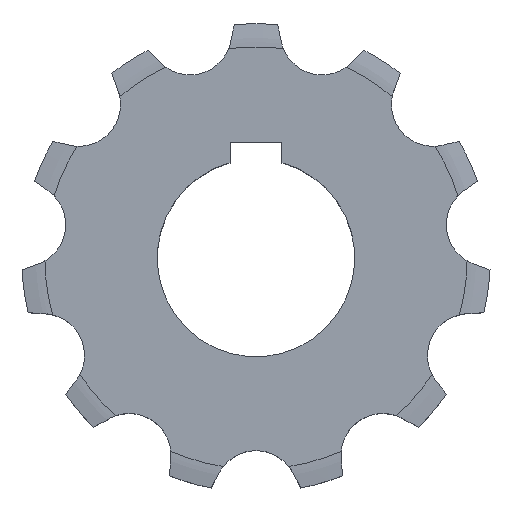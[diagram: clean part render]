
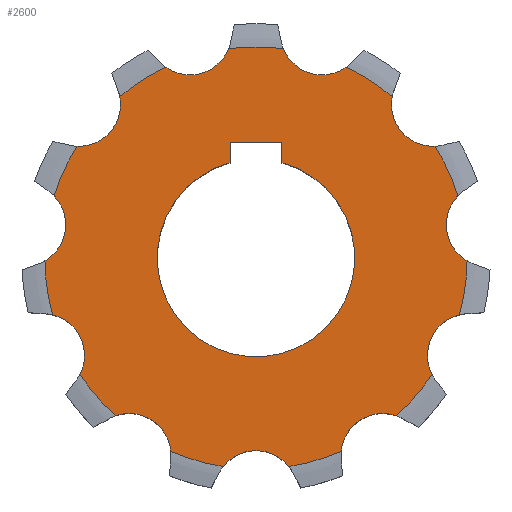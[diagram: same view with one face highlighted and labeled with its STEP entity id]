
A CAD part, top view. The second image highlights one B-rep face of the part: STEP entity #2600.
In plain terms, the highlighted planar face has unit normal (0, 0, 1).
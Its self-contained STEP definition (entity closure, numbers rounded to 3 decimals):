
#33=CARTESIAN_POINT('',(12.7,43.252,8.1));
#34=DIRECTION('',(0.,0.,1.));
#35=DIRECTION('',(-0.928,-0.372,0.));
#36=AXIS2_PLACEMENT_3D('',#33,#34,#35);
#42=CARTESIAN_POINT('',(0.,0.,8.1));
#43=DIRECTION('',(0.,0.,-1.));
#44=DIRECTION('',(0.427,0.904,0.));
#45=AXIS2_PLACEMENT_3D('',#42,#43,#44);
#50=CARTESIAN_POINT('',(34.068,29.52,8.1));
#51=DIRECTION('',(0.,0.,1.));
#52=DIRECTION('',(-0.982,0.189,0.));
#53=AXIS2_PLACEMENT_3D('',#50,#51,#52);
#58=CARTESIAN_POINT('',(0.,0.,8.1));
#59=DIRECTION('',(0.,0.,-1.));
#60=DIRECTION('',(0.848,0.53,0.));
#61=AXIS2_PLACEMENT_3D('',#58,#59,#60);
#66=CARTESIAN_POINT('',(44.619,6.415,8.1));
#67=DIRECTION('',(0.,0.,1.));
#68=DIRECTION('',(-0.724,0.69,0.));
#69=AXIS2_PLACEMENT_3D('',#66,#67,#68);
#74=CARTESIAN_POINT('',(0.,0.,8.1));
#75=DIRECTION('',(0.,0.,-1.));
#76=DIRECTION('',(1.,-0.013,0.));
#77=AXIS2_PLACEMENT_3D('',#74,#75,#76);
#82=CARTESIAN_POINT('',(41.005,-18.726,8.1));
#83=DIRECTION('',(0.,0.,1.));
#84=DIRECTION('',(-0.236,0.972,0.));
#85=AXIS2_PLACEMENT_3D('',#82,#83,#84);
#90=CARTESIAN_POINT('',(0.,0.,8.1));
#91=DIRECTION('',(0.,0.,-1.));
#92=DIRECTION('',(0.834,-0.552,0.));
#93=AXIS2_PLACEMENT_3D('',#90,#91,#92);
#98=CARTESIAN_POINT('',(24.371,-37.922,8.1));
#99=DIRECTION('',(0.,0.,1.));
#100=DIRECTION('',(0.327,0.945,0.));
#101=AXIS2_PLACEMENT_3D('',#98,#99,#100);
#106=CARTESIAN_POINT('',(0.,0.,8.1));
#107=DIRECTION('',(0.,0.,-1.));
#108=DIRECTION('',(0.404,-0.915,0.));
#109=AXIS2_PLACEMENT_3D('',#106,#107,#108);
#114=CARTESIAN_POINT('',(0.,-45.078,8.1));
#115=DIRECTION('',(0.,0.,1.));
#116=DIRECTION('',(0.786,0.618,0.));
#117=AXIS2_PLACEMENT_3D('',#114,#115,#116);
#122=CARTESIAN_POINT('',(0.,0.,8.1));
#123=DIRECTION('',(0.,0.,-1.));
#124=DIRECTION('',(-0.155,-0.988,0.));
#125=AXIS2_PLACEMENT_3D('',#122,#123,#124);
#130=CARTESIAN_POINT('',(-24.371,-37.922,8.1));
#131=DIRECTION('',(0.,0.,1.));
#132=DIRECTION('',(0.995,0.095,0.));
#133=AXIS2_PLACEMENT_3D('',#130,#131,#132);
#138=CARTESIAN_POINT('',(0.,0.,8.1));
#139=DIRECTION('',(0.,0.,-1.));
#140=DIRECTION('',(-0.665,-0.747,0.));
#141=AXIS2_PLACEMENT_3D('',#138,#139,#140);
#146=CARTESIAN_POINT('',(-41.005,-18.726,8.1));
#147=DIRECTION('',(0.,0.,1.));
#148=DIRECTION('',(0.889,-0.458,0.));
#149=AXIS2_PLACEMENT_3D('',#146,#147,#148);
#154=CARTESIAN_POINT('',(0.,0.,8.1));
#155=DIRECTION('',(0.,0.,-1.));
#156=DIRECTION('',(-0.963,-0.269,0.));
#157=AXIS2_PLACEMENT_3D('',#154,#155,#156);
#162=CARTESIAN_POINT('',(-44.619,6.415,8.1));
#163=DIRECTION('',(0.,0.,1.));
#164=DIRECTION('',(0.5,-0.866,0.));
#165=AXIS2_PLACEMENT_3D('',#162,#163,#164);
#170=CARTESIAN_POINT('',(0.,0.,8.1));
#171=DIRECTION('',(0.,0.,-1.));
#172=DIRECTION('',(-0.956,0.294,0.));
#173=AXIS2_PLACEMENT_3D('',#170,#171,#172);
#178=CARTESIAN_POINT('',(-34.068,29.52,8.1));
#179=DIRECTION('',(0.,0.,1.));
#180=DIRECTION('',(-0.048,-0.999,0.));
#181=AXIS2_PLACEMENT_3D('',#178,#179,#180);
#186=CARTESIAN_POINT('',(0.,0.,8.1));
#187=DIRECTION('',(0.,0.,-1.));
#188=DIRECTION('',(-0.645,0.764,0.));
#189=AXIS2_PLACEMENT_3D('',#186,#187,#188);
#194=CARTESIAN_POINT('',(-12.7,43.252,8.1));
#195=DIRECTION('',(0.,0.,1.));
#196=DIRECTION('',(-0.58,-0.815,0.));
#197=AXIS2_PLACEMENT_3D('',#194,#195,#196);
#202=DIRECTION('',(0.,1.,0.));
#203=VECTOR('',#202,3.97);
#204=CARTESIAN_POINT('',(5.,18.33,8.1));
#205=LINE('',#204,#203);
#209=DIRECTION('',(-1.,0.,0.));
#210=VECTOR('',#209,10.);
#211=CARTESIAN_POINT('',(5.,22.3,8.1));
#212=LINE('',#211,#210);
#216=DIRECTION('',(0.,-1.,0.));
#217=VECTOR('',#216,3.97);
#218=CARTESIAN_POINT('',(-5.,22.3,8.1));
#219=LINE('',#218,#217);
#255=CARTESIAN_POINT('',(0.,0.,8.1));
#256=DIRECTION('',(0.,0.,1.));
#257=DIRECTION('',(0.129,0.992,0.));
#258=AXIS2_PLACEMENT_3D('',#255,#256,#257);
#1240=CARTESIAN_POINT('',(0.,0.,8.1));
#1241=DIRECTION('',(0.,0.,-1.));
#1242=DIRECTION('',(0.263,0.965,0.));
#1243=AXIS2_PLACEMENT_3D('',#1240,#1241,#1242);
#1434=CARTESIAN_POINT('',(5.255,40.273,8.1));
#2261=CARTESIAN_POINT('',(17.352,36.72,8.1));
#2262=CARTESIAN_POINT('',(26.194,31.038,8.1));
#2263=VERTEX_POINT('',#2261);
#2264=VERTEX_POINT('',#2262);
#2265=CARTESIAN_POINT('',(34.45,21.51,8.1));
#2266=CARTESIAN_POINT('',(38.816,11.95,8.1));
#2267=VERTEX_POINT('',#2265);
#2268=VERTEX_POINT('',#2266);
#2269=CARTESIAN_POINT('',(40.61,-0.53,8.1));
#2270=CARTESIAN_POINT('',(39.115,-10.933,8.1));
#2271=VERTEX_POINT('',#2269);
#2272=VERTEX_POINT('',#2270);
#2273=CARTESIAN_POINT('',(-6.304,-40.122,8.1));
#2274=CARTESIAN_POINT('',(-16.388,-37.161,8.1));
#2275=VERTEX_POINT('',#2273);
#2276=VERTEX_POINT('',#2274);
#2277=CARTESIAN_POINT('',(-26.995,-30.344,8.1));
#2278=CARTESIAN_POINT('',(-33.877,-22.402,8.1));
#2279=VERTEX_POINT('',#2277);
#2280=VERTEX_POINT('',#2278);
#2281=CARTESIAN_POINT('',(-39.115,-10.933,8.1));
#2282=CARTESIAN_POINT('',(-40.61,-0.53,8.1));
#2283=VERTEX_POINT('',#2281);
#2284=VERTEX_POINT('',#2282);
#2285=CARTESIAN_POINT('',(-38.816,11.95,8.1));
#2286=CARTESIAN_POINT('',(-34.45,21.51,8.1));
#2287=VERTEX_POINT('',#2285);
#2288=VERTEX_POINT('',#2286);
#2318=VERTEX_POINT('',#1434);
#2341=CARTESIAN_POINT('',(33.877,-22.402,8.1));
#2342=VERTEX_POINT('',#2341);
#2345=CARTESIAN_POINT('',(26.995,-30.344,8.1));
#2346=CARTESIAN_POINT('',(16.388,-37.161,8.1));
#2347=VERTEX_POINT('',#2345);
#2348=VERTEX_POINT('',#2346);
#2353=CARTESIAN_POINT('',(6.304,-40.122,8.1));
#2354=VERTEX_POINT('',#2353);
#2377=CARTESIAN_POINT('',(-26.194,31.038,8.1));
#2378=CARTESIAN_POINT('',(-17.352,36.72,8.1));
#2379=VERTEX_POINT('',#2377);
#2380=VERTEX_POINT('',#2378);
#2485=CARTESIAN_POINT('',(-5.255,40.273,8.1));
#2486=VERTEX_POINT('',#2485);
#2497=CARTESIAN_POINT('',(5.,18.33,8.1));
#2498=VERTEX_POINT('',#2497);
#2499=CARTESIAN_POINT('',(-5.,18.33,8.1));
#2500=VERTEX_POINT('',#2499);
#2501=CARTESIAN_POINT('',(5.,22.3,8.1));
#2502=VERTEX_POINT('',#2501);
#2503=CARTESIAN_POINT('',(-5.,22.3,8.1));
#2504=VERTEX_POINT('',#2503);
#2539=CARTESIAN_POINT('',(0.,0.,8.1));
#2540=DIRECTION('',(0.,0.,1.));
#2541=DIRECTION('',(1.,0.,0.));
#2542=AXIS2_PLACEMENT_3D('',#2539,#2540,#2541);
#2543=PLANE('',#2542);
#2545=ORIENTED_EDGE('',*,*,#2544,.F.);
#2547=ORIENTED_EDGE('',*,*,#2546,.T.);
#2549=ORIENTED_EDGE('',*,*,#2548,.T.);
#2551=ORIENTED_EDGE('',*,*,#2550,.T.);
#2553=ORIENTED_EDGE('',*,*,#2552,.T.);
#2555=ORIENTED_EDGE('',*,*,#2554,.T.);
#2557=ORIENTED_EDGE('',*,*,#2556,.T.);
#2559=ORIENTED_EDGE('',*,*,#2558,.T.);
#2561=ORIENTED_EDGE('',*,*,#2560,.T.);
#2563=ORIENTED_EDGE('',*,*,#2562,.T.);
#2565=ORIENTED_EDGE('',*,*,#2564,.T.);
#2567=ORIENTED_EDGE('',*,*,#2566,.T.);
#2569=ORIENTED_EDGE('',*,*,#2568,.T.);
#2571=ORIENTED_EDGE('',*,*,#2570,.T.);
#2573=ORIENTED_EDGE('',*,*,#2572,.T.);
#2575=ORIENTED_EDGE('',*,*,#2574,.T.);
#2577=ORIENTED_EDGE('',*,*,#2576,.T.);
#2579=ORIENTED_EDGE('',*,*,#2578,.T.);
#2581=ORIENTED_EDGE('',*,*,#2580,.T.);
#2583=ORIENTED_EDGE('',*,*,#2582,.T.);
#2585=ORIENTED_EDGE('',*,*,#2584,.T.);
#2587=ORIENTED_EDGE('',*,*,#2586,.T.);
#2588=EDGE_LOOP('',(#2545,#2547,#2549,#2551,#2553,#2555,#2557,#2559,#2561,#2563,
#2565,#2567,#2569,#2571,#2573,#2575,#2577,#2579,#2581,#2583,#2585,#2587));
#2589=FACE_OUTER_BOUND('',#2588,.F.);
#2591=ORIENTED_EDGE('',*,*,#2590,.T.);
#2593=ORIENTED_EDGE('',*,*,#2592,.T.);
#2595=ORIENTED_EDGE('',*,*,#2594,.T.);
#2597=ORIENTED_EDGE('',*,*,#2596,.F.);
#2598=EDGE_LOOP('',(#2591,#2593,#2595,#2597));
#2599=FACE_BOUND('',#2598,.F.);
#2600=ADVANCED_FACE('',(#2589,#2599),#2543,.T.);
#37=CIRCLE('',#36,8.019);
#46=CIRCLE('',#45,40.614);
#54=CIRCLE('',#53,8.019);
#62=CIRCLE('',#61,40.614);
#70=CIRCLE('',#69,8.019);
#78=CIRCLE('',#77,40.614);
#86=CIRCLE('',#85,8.019);
#94=CIRCLE('',#93,40.614);
#102=CIRCLE('',#101,8.019);
#110=CIRCLE('',#109,40.614);
#118=CIRCLE('',#117,8.019);
#126=CIRCLE('',#125,40.614);
#134=CIRCLE('',#133,8.019);
#142=CIRCLE('',#141,40.614);
#150=CIRCLE('',#149,8.019);
#158=CIRCLE('',#157,40.614);
#166=CIRCLE('',#165,8.019);
#174=CIRCLE('',#173,40.614);
#182=CIRCLE('',#181,8.019);
#190=CIRCLE('',#189,40.614);
#198=CIRCLE('',#197,8.019);
#259=CIRCLE('',#258,40.614);
#1244=CIRCLE('',#1243,19.);
#2544=EDGE_CURVE('',#2318,#2486,#259,.T.);
#2546=EDGE_CURVE('',#2318,#2263,#37,.T.);
#2548=EDGE_CURVE('',#2263,#2264,#46,.T.);
#2550=EDGE_CURVE('',#2264,#2267,#54,.T.);
#2552=EDGE_CURVE('',#2267,#2268,#62,.T.);
#2554=EDGE_CURVE('',#2268,#2271,#70,.T.);
#2556=EDGE_CURVE('',#2271,#2272,#78,.T.);
#2558=EDGE_CURVE('',#2272,#2342,#86,.T.);
#2560=EDGE_CURVE('',#2342,#2347,#94,.T.);
#2562=EDGE_CURVE('',#2347,#2348,#102,.T.);
#2564=EDGE_CURVE('',#2348,#2354,#110,.T.);
#2566=EDGE_CURVE('',#2354,#2275,#118,.T.);
#2568=EDGE_CURVE('',#2275,#2276,#126,.T.);
#2570=EDGE_CURVE('',#2276,#2279,#134,.T.);
#2572=EDGE_CURVE('',#2279,#2280,#142,.T.);
#2574=EDGE_CURVE('',#2280,#2283,#150,.T.);
#2576=EDGE_CURVE('',#2283,#2284,#158,.T.);
#2578=EDGE_CURVE('',#2284,#2287,#166,.T.);
#2580=EDGE_CURVE('',#2287,#2288,#174,.T.);
#2582=EDGE_CURVE('',#2288,#2379,#182,.T.);
#2584=EDGE_CURVE('',#2379,#2380,#190,.T.);
#2586=EDGE_CURVE('',#2380,#2486,#198,.T.);
#2590=EDGE_CURVE('',#2498,#2502,#205,.T.);
#2592=EDGE_CURVE('',#2502,#2504,#212,.T.);
#2594=EDGE_CURVE('',#2504,#2500,#219,.T.);
#2596=EDGE_CURVE('',#2498,#2500,#1244,.T.);
